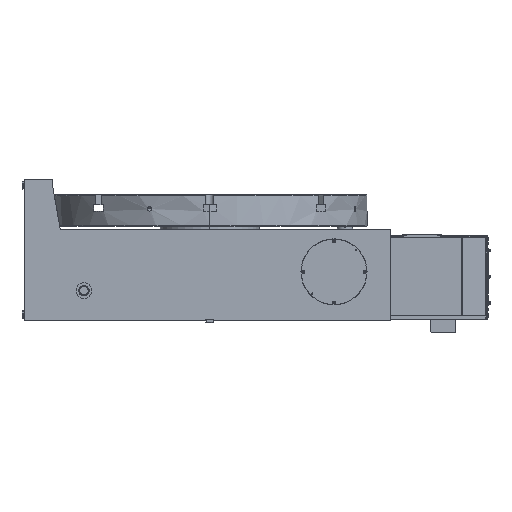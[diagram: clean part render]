
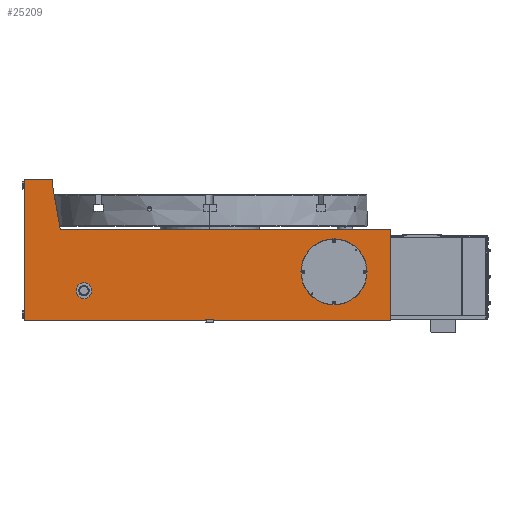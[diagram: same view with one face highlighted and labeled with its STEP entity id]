
A CAD part, front view. The second image highlights one B-rep face of the part: STEP entity #25209.
In plain terms, the highlighted planar face has unit normal (0, -1, 0).
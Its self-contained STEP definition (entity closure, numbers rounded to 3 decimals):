
#969 = CARTESIAN_POINT ( 'NONE',  ( -590., -560., 450. ) ) ;
#1823 = CARTESIAN_POINT ( 'NONE',  ( -400., -560., 120. ) ) ;
#1892 = CARTESIAN_POINT ( 'NONE',  ( -590., -560., 0. ) ) ;
#2133 = EDGE_CURVE ( 'NONE', #13618, #17614, #3291, .T. ) ;
#2327 = CARTESIAN_POINT ( 'NONE',  ( -400., -560., 70. ) ) ;
#2567 = CARTESIAN_POINT ( 'NONE',  ( 12., -560., 5. ) ) ;
#2812 = FACE_BOUND ( 'NONE', #12550, .T. ) ;
#3034 = CARTESIAN_POINT ( 'NONE',  ( 395., -560., 50. ) ) ;
#3109 = EDGE_CURVE ( 'NONE', #25839, #12783, #39338, .T. ) ;
#3291 = LINE ( 'NONE', #15302, #29055 ) ;
#3322 = DIRECTION ( 'NONE',  ( 0., 0., 1. ) ) ;
#3500 = DIRECTION ( 'NONE',  ( -1., 0., 0. ) ) ;
#3561 = EDGE_CURVE ( 'NONE', #28324, #30893, #36438, .T. ) ;
#3654 = CARTESIAN_POINT ( 'NONE',  ( -590., -560., 450. ) ) ;
#3844 = LINE ( 'NONE', #3654, #26065 ) ;
#4240 = CARTESIAN_POINT ( 'NONE',  ( -590., -560., 0. ) ) ;
#4633 = ORIENTED_EDGE ( 'NONE', *, *, #15848, .T. ) ;
#4772 = CARTESIAN_POINT ( 'NONE',  ( -400., -560., 95. ) ) ;
#5045 = EDGE_CURVE ( 'NONE', #8065, #31753, #23783, .T. ) ;
#6058 = CARTESIAN_POINT ( 'NONE',  ( -500., -560., 290. ) ) ;
#6169 = ORIENTED_EDGE ( 'NONE', *, *, #3109, .F. ) ;
#6490 = DIRECTION ( 'NONE',  ( 1., 0., 0. ) ) ;
#7785 = CIRCLE ( 'NONE', #13517, 105. ) ;
#7885 = EDGE_CURVE ( 'NONE', #12783, #25839, #37209, .T. ) ;
#8065 = VERTEX_POINT ( 'NONE', #4240 ) ;
#8463 = ORIENTED_EDGE ( 'NONE', *, *, #3561, .T. ) ;
#9279 = DIRECTION ( 'NONE',  ( 0., 0., 1. ) ) ;
#9296 = VECTOR ( 'NONE', #36814, 1000. ) ;
#9347 = CARTESIAN_POINT ( 'NONE',  ( -500., -560., 430. ) ) ;
#9421 = ORIENTED_EDGE ( 'NONE', *, *, #5045, .T. ) ;
#9537 = VERTEX_POINT ( 'NONE', #3034 ) ;
#9765 = AXIS2_PLACEMENT_3D ( 'NONE', #4772, #23751, #26168 ) ;
#9967 = LINE ( 'NONE', #969, #12267 ) ;
#10982 = EDGE_CURVE ( 'NONE', #9537, #11447, #31980, .T. ) ;
#11038 = ORIENTED_EDGE ( 'NONE', *, *, #25982, .F. ) ;
#11447 = VERTEX_POINT ( 'NONE', #23138 ) ;
#11481 = LINE ( 'NONE', #1892, #17104 ) ;
#11721 = EDGE_CURVE ( 'NONE', #11447, #9537, #7785, .T. ) ;
#12036 = ORIENTED_EDGE ( 'NONE', *, *, #16133, .F. ) ;
#12267 = VECTOR ( 'NONE', #34536, 1000. ) ;
#12550 = EDGE_LOOP ( 'NONE', ( #30579, #19982 ) ) ;
#12671 = ORIENTED_EDGE ( 'NONE', *, *, #28731, .F. ) ;
#12783 = VERTEX_POINT ( 'NONE', #1823 ) ;
#13076 = DIRECTION ( 'NONE',  ( 0., 0., -1. ) ) ;
#13207 = ORIENTED_EDGE ( 'NONE', *, *, #21452, .F. ) ;
#13432 = CARTESIAN_POINT ( 'NONE',  ( -590., -560., 290. ) ) ;
#13517 = AXIS2_PLACEMENT_3D ( 'NONE', #30718, #27912, #3322 ) ;
#13618 = VERTEX_POINT ( 'NONE', #19915 ) ;
#13932 = DIRECTION ( 'NONE',  ( 0., -1., 0. ) ) ;
#14057 = VERTEX_POINT ( 'NONE', #19472 ) ;
#14482 = DIRECTION ( 'NONE',  ( 0., 0., 1. ) ) ;
#14536 = EDGE_CURVE ( 'NONE', #30473, #33477, #38931, .T. ) ;
#14608 = VECTOR ( 'NONE', #35550, 1000. ) ;
#15194 = DIRECTION ( 'NONE',  ( 1., 0., 0. ) ) ;
#15302 = CARTESIAN_POINT ( 'NONE',  ( 575., -560., 290. ) ) ;
#15508 = LINE ( 'NONE', #13432, #17051 ) ;
#15848 = EDGE_CURVE ( 'NONE', #33477, #17614, #11481, .T. ) ;
#16133 = EDGE_CURVE ( 'NONE', #32373, #30893, #3844, .T. ) ;
#16648 = CARTESIAN_POINT ( 'NONE',  ( -590., -560., 450. ) ) ;
#17051 = VECTOR ( 'NONE', #6490, 1000. ) ;
#17104 = VECTOR ( 'NONE', #26677, 1000. ) ;
#17614 = VERTEX_POINT ( 'NONE', #21011 ) ;
#17993 = FACE_OUTER_BOUND ( 'NONE', #28947, .T. ) ;
#18432 = LINE ( 'NONE', #30633, #9296 ) ;
#19431 = DIRECTION ( 'NONE',  ( 1., 0., 0. ) ) ;
#19472 = CARTESIAN_POINT ( 'NONE',  ( -475.314, -560., 290. ) ) ;
#19915 = CARTESIAN_POINT ( 'NONE',  ( 575., -560., 290. ) ) ;
#19982 = ORIENTED_EDGE ( 'NONE', *, *, #10982, .T. ) ;
#20070 = VECTOR ( 'NONE', #15194, 1000. ) ;
#20477 = AXIS2_PLACEMENT_3D ( 'NONE', #34044, #36849, #9279 ) ;
#20991 = CARTESIAN_POINT ( 'NONE',  ( -590., -560., 450. ) ) ;
#21011 = CARTESIAN_POINT ( 'NONE',  ( 575., -560., 0. ) ) ;
#21180 = FACE_BOUND ( 'NONE', #38394, .T. ) ;
#21452 = EDGE_CURVE ( 'NONE', #28324, #14057, #21718, .T. ) ;
#21683 = LINE ( 'NONE', #30901, #39079 ) ;
#21718 = LINE ( 'NONE', #9347, #27586 ) ;
#22082 = AXIS2_PLACEMENT_3D ( 'NONE', #20991, #38782, #39175 ) ;
#22769 = VERTEX_POINT ( 'NONE', #31916 ) ;
#22810 = ORIENTED_EDGE ( 'NONE', *, *, #14536, .T. ) ;
#23088 = EDGE_CURVE ( 'NONE', #30473, #22769, #21683, .T. ) ;
#23138 = CARTESIAN_POINT ( 'NONE',  ( 395., -560., 260. ) ) ;
#23630 = ORIENTED_EDGE ( 'NONE', *, *, #37711, .T. ) ;
#23751 = DIRECTION ( 'NONE',  ( 0., -1., 0. ) ) ;
#23783 = LINE ( 'NONE', #24177, #20070 ) ;
#24177 = CARTESIAN_POINT ( 'NONE',  ( -590., -560., 0. ) ) ;
#25209 = ADVANCED_FACE ( 'NONE', ( #17993, #2812, #21180 ), #33377, .F. ) ;
#25839 = VERTEX_POINT ( 'NONE', #2327 ) ;
#25982 = EDGE_CURVE ( 'NONE', #14057, #13618, #15508, .T. ) ;
#26065 = VECTOR ( 'NONE', #19431, 1000. ) ;
#26168 = DIRECTION ( 'NONE',  ( 0., 0., -1. ) ) ;
#26677 = DIRECTION ( 'NONE',  ( 1., 0., 0. ) ) ;
#26955 = CARTESIAN_POINT ( 'NONE',  ( 12., -560., 5. ) ) ;
#27586 = VECTOR ( 'NONE', #28107, 1000. ) ;
#27912 = DIRECTION ( 'NONE',  ( 0., 1., 0. ) ) ;
#28107 = DIRECTION ( 'NONE',  ( 0.174, 0., -0.985 ) ) ;
#28213 = ORIENTED_EDGE ( 'NONE', *, *, #7885, .F. ) ;
#28324 = VERTEX_POINT ( 'NONE', #34442 ) ;
#28731 = EDGE_CURVE ( 'NONE', #22769, #31753, #18432, .T. ) ;
#28947 = EDGE_LOOP ( 'NONE', ( #9421, #12671, #36186, #22810, #4633, #34817, #11038, #13207, #8463, #12036, #23630 ) ) ;
#29055 = VECTOR ( 'NONE', #13076, 1000. ) ;
#30473 = VERTEX_POINT ( 'NONE', #26955 ) ;
#30579 = ORIENTED_EDGE ( 'NONE', *, *, #11721, .T. ) ;
#30633 = CARTESIAN_POINT ( 'NONE',  ( -12., -560., 5. ) ) ;
#30718 = CARTESIAN_POINT ( 'NONE',  ( 395., -560., 155. ) ) ;
#30893 = VERTEX_POINT ( 'NONE', #33644 ) ;
#30901 = CARTESIAN_POINT ( 'NONE',  ( -12., -560., 5. ) ) ;
#31149 = CARTESIAN_POINT ( 'NONE',  ( -12., -560., 0. ) ) ;
#31303 = CARTESIAN_POINT ( 'NONE',  ( 12., -560., 0. ) ) ;
#31753 = VERTEX_POINT ( 'NONE', #31149 ) ;
#31916 = CARTESIAN_POINT ( 'NONE',  ( -12., -560., 5. ) ) ;
#31980 = CIRCLE ( 'NONE', #20477, 105. ) ;
#32320 = CARTESIAN_POINT ( 'NONE',  ( -400., -560., 95. ) ) ;
#32373 = VERTEX_POINT ( 'NONE', #16648 ) ;
#33377 = PLANE ( 'NONE',  #22082 ) ;
#33477 = VERTEX_POINT ( 'NONE', #31303 ) ;
#33592 = AXIS2_PLACEMENT_3D ( 'NONE', #32320, #13932, #34902 ) ;
#33644 = CARTESIAN_POINT ( 'NONE',  ( -500., -560., 450. ) ) ;
#34044 = CARTESIAN_POINT ( 'NONE',  ( 395., -560., 155. ) ) ;
#34442 = CARTESIAN_POINT ( 'NONE',  ( -500., -560., 430. ) ) ;
#34536 = DIRECTION ( 'NONE',  ( 0., 0., -1. ) ) ;
#34817 = ORIENTED_EDGE ( 'NONE', *, *, #2133, .F. ) ;
#34902 = DIRECTION ( 'NONE',  ( 0., 0., -1. ) ) ;
#35550 = DIRECTION ( 'NONE',  ( 0., 0., -1. ) ) ;
#36186 = ORIENTED_EDGE ( 'NONE', *, *, #23088, .F. ) ;
#36438 = LINE ( 'NONE', #6058, #37471 ) ;
#36814 = DIRECTION ( 'NONE',  ( 0., 0., -1. ) ) ;
#36849 = DIRECTION ( 'NONE',  ( 0., 1., 0. ) ) ;
#37209 = CIRCLE ( 'NONE', #9765, 25. ) ;
#37471 = VECTOR ( 'NONE', #14482, 1000. ) ;
#37711 = EDGE_CURVE ( 'NONE', #32373, #8065, #9967, .T. ) ;
#38394 = EDGE_LOOP ( 'NONE', ( #6169, #28213 ) ) ;
#38782 = DIRECTION ( 'NONE',  ( 0., 1., 0. ) ) ;
#38931 = LINE ( 'NONE', #2567, #14608 ) ;
#39079 = VECTOR ( 'NONE', #3500, 1000. ) ;
#39175 = DIRECTION ( 'NONE',  ( 0., 0., 1. ) ) ;
#39338 = CIRCLE ( 'NONE', #33592, 25. ) ;
